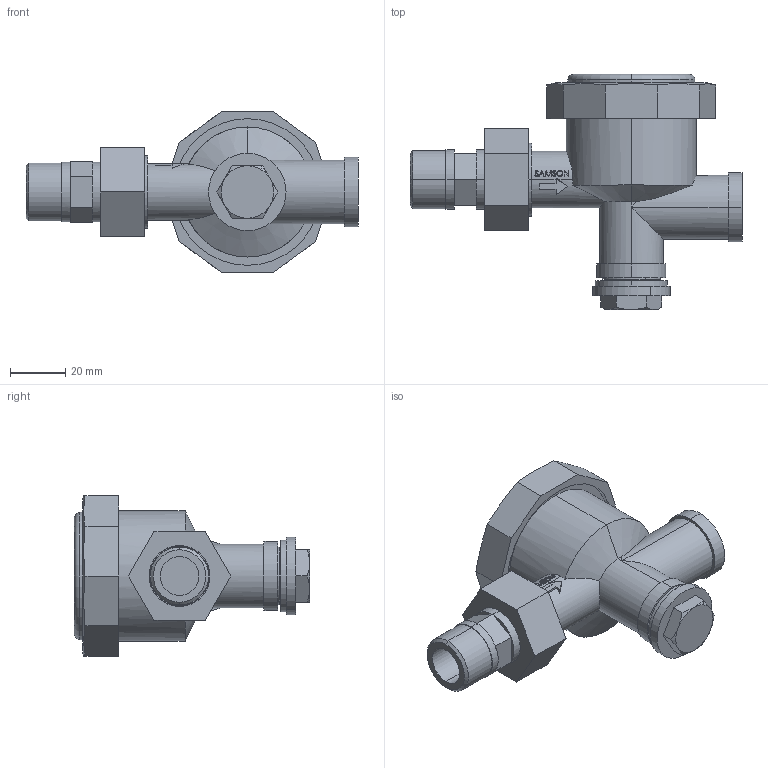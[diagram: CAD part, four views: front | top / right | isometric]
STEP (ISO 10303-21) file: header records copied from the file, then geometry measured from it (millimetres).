
FILE_DESCRIPTION (( 'STEP AP203' ), '1' );
FILE_NAME ('Typ13E_2013_SS_DIN_G1-2_#_#_#_std.STEP', '2010-06-21T12:39:58', ( '' ), ( '' ), 'SwSTEP 2.0', 'SolidWorks 2006303', '' );
FILE_SCHEMA (( 'CONFIG_CONTROL_DESIGN' ));
Length unit declared in the file: millimetre
Products named in the file (1): Typ13E_2013_SS_DIN_G1-2_#_#_#_std
Bounding box: 120 x 85 x 58 mm (x, y, z)
Volume: 138229.4 mm3; surface area: 46348.2 mm2
Topology: 8 solids, 8 shells, 348 faces, 847 edges, 549 vertices
Faces by surface type: plane 186, bspline 76, cylinder 64, cone 16, torus 6
Entity records: 14028 total; most frequent: CARTESIAN_POINT 6282, ORIENTED_EDGE 1694, DIRECTION 1359, EDGE_CURVE 847, VERTEX_POINT 549, LINE 459, VECTOR 459, AXIS2_PLACEMENT_3D 450
